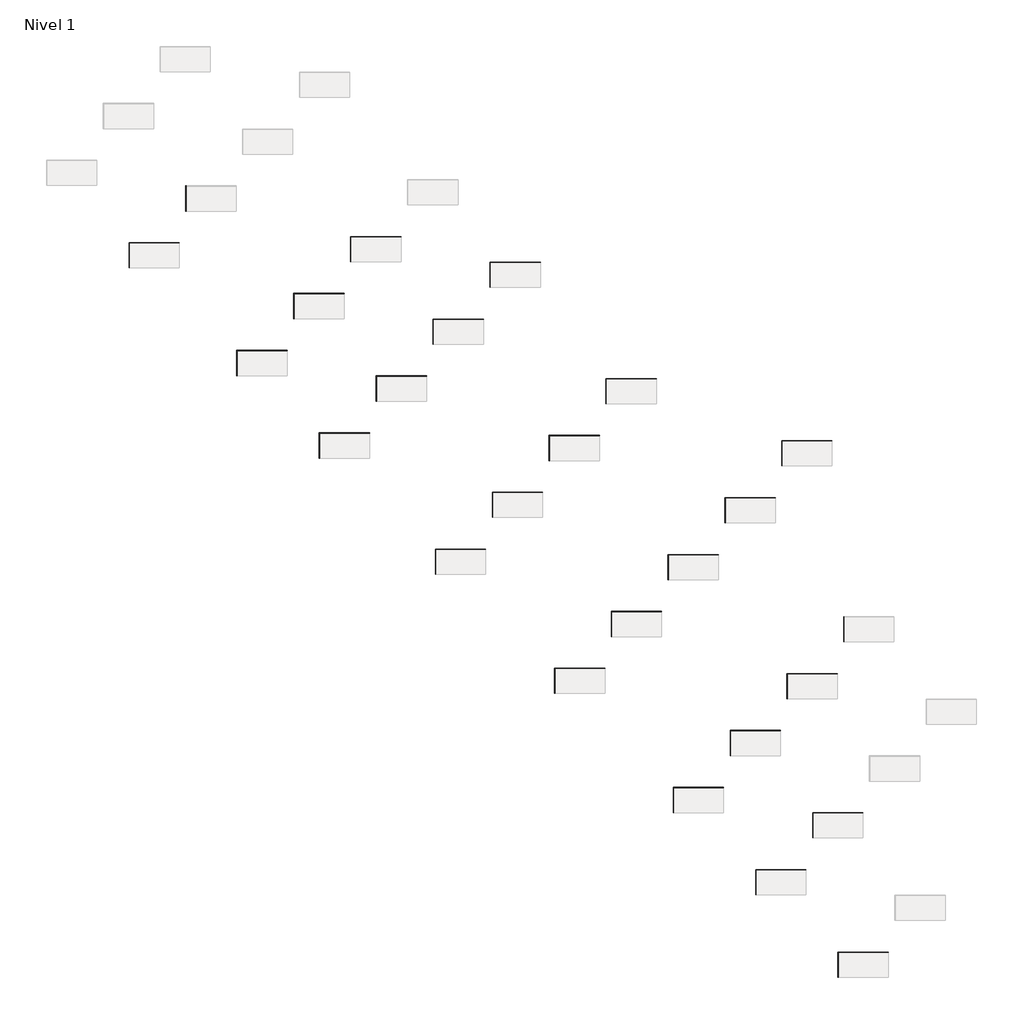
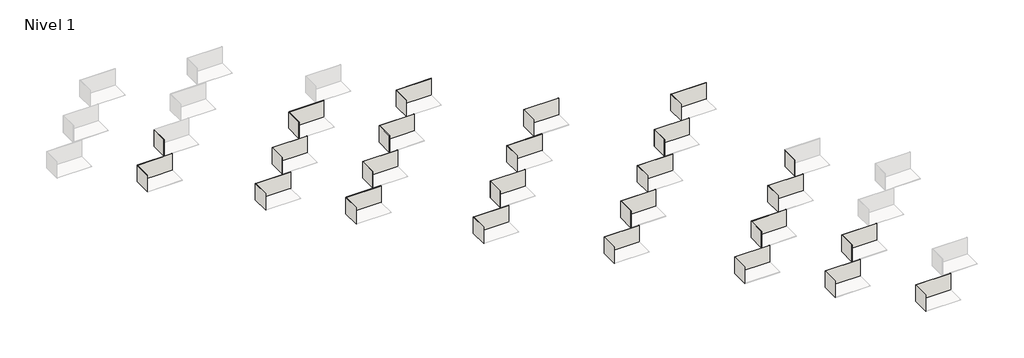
# One storey, part 1 of 2: 48 walls.
"""IFC4 building model written with IfcOpenShell, lengths in millimetres."""

import ifcopenshell
import ifcopenshell.guid

model = None  # the IFC model being written
_history = None  # IfcOwnerHistory: only IFC2X3 demands one
_inside = {}  # id of a spatial element -> (the spatial element, [elements in it])
_under = {}  # id of a project, library or spatial element -> (it, [spatial elements below it])
_declared = {}  # id of a project -> (the project, [libraries it declares])
_typed = {}  # id of a type object -> (the type object, [elements of that type])
_made_of = {}  # id of a material, layer set ... -> (it, [elements and type objects made of it])


def new_model(schema):
    """Start an empty IFC model of exactly this schema.

    Asked for "IFC4X3", IfcOpenShell would pick the latest addendum, in which some entities
    have other attributes; the version numbers below select the first issue.
    IFC2X3 requires an IfcOwnerHistory on every rooted entity: one is made here for all.
    """
    global model, _history
    if schema == "IFC4X3":
        model = ifcopenshell.file(schema_version=(4, 3, 0, 0))
    else:
        model = ifcopenshell.file(schema=schema)
    _inside.clear()
    _under.clear()
    _declared.clear()
    _typed.clear()
    _made_of.clear()
    _history = None
    if model.schema == "IFC2X3":
        org = make("IfcOrganization", Name="unknown")
        user = make(
            "IfcPersonAndOrganization",
            ThePerson=make("IfcPerson", FamilyName="unknown"),
            TheOrganization=org,
        )
        app = make(
            "IfcApplication",
            ApplicationDeveloper=org,
            Version="unknown",
            ApplicationFullName="unknown",
            ApplicationIdentifier="unknown",
        )
        _history = make(
            "IfcOwnerHistory",
            OwningUser=user,
            OwningApplication=app,
            ChangeAction="ADDED",
            CreationDate=0,
        )
    return model


def make(cls, **values):
    """One entity of the class cls with the attributes given. An attribute that is None is left unset."""
    return model.create_entity(
        cls, **{name: value for name, value in values.items() if value is not None}
    )


def rooted(cls, **values):
    """An entity with a GlobalId (a new one), such as an element, a storey or a relation."""
    return make(cls, GlobalId=ifcopenshell.guid.new(), OwnerHistory=_history, **values)


def si_unit(unit_type, name, prefix=None):
    """IfcSIUnit, for example si_unit("LENGTHUNIT", "METRE", prefix="MILLI")."""
    return make("IfcSIUnit", UnitType=unit_type, Prefix=prefix, Name=name)


def assignment(units):
    """IfcUnitAssignment: the units of a project."""
    return None if units is None else make("IfcUnitAssignment", Units=units)


def point(xyz):
    """IfcCartesianPoint."""
    return None if xyz is None else make("IfcCartesianPoint", Coordinates=xyz)


def direction(xyz):
    """IfcDirection."""
    return None if xyz is None else make("IfcDirection", DirectionRatios=xyz)


def frame(location, z_axis=None, x_axis=None):
    """IfcAxis2Placement3D, a coordinate frame: its origin and axes. An axis left out is left unset."""
    return make(
        "IfcAxis2Placement3D",
        Location=point(location),
        Axis=direction(z_axis),
        RefDirection=direction(x_axis),
    )


def origin():
    """The frame at (0, 0, 0) with its axes left unset."""
    return frame((0.0, 0.0, 0.0))


def origin_with_axes():
    """The frame at (0, 0, 0) with the z axis (0, 0, 1) and the x axis (1, 0, 0) written out."""
    return frame((0.0, 0.0, 0.0), z_axis=(0.0, 0.0, 1.0), x_axis=(1.0, 0.0, 0.0))


def place(relative_to, where):
    """IfcLocalPlacement: puts the frame where relative to a parent placement (None: the world)."""
    return make(
        "IfcLocalPlacement", PlacementRelTo=relative_to, RelativePlacement=where
    )


def context(
    kind, dimensions, precision=None, world=None, true_north=None, identifier=None
):
    """IfcGeometricRepresentationContext, for example the 3D "Model" context."""
    return make(
        "IfcGeometricRepresentationContext",
        ContextIdentifier=identifier,
        ContextType=kind,
        CoordinateSpaceDimension=dimensions,
        Precision=precision,
        WorldCoordinateSystem=world,
        TrueNorth=true_north,
    )


def project(units=None, contexts=None):
    """IfcProject with its units and contexts."""
    return rooted(
        "IfcProject",
        Name="project",
        RepresentationContexts=contexts,
        UnitsInContext=assignment(units),
    )


def spatial(cls, under=None, at=None, **own):
    """A site, building, storey or space (cls), placed at a placement, below another one or the project."""
    s = rooted(cls, ObjectPlacement=at, **own)
    if under is not None:
        _under.setdefault(under.id(), (under, []))[1].append(s)
    return s


def polyline(points):
    """IfcPolyline through the points."""
    return make("IfcPolyline", Points=[point(p) for p in points])


def outline(outer, holes=None, kind="AREA"):
    """IfcArbitraryClosedProfileDef: a profile drawn as a closed curve; with holes, ...WithVoids."""
    if holes is None:
        return make("IfcArbitraryClosedProfileDef", ProfileType=kind, OuterCurve=outer)
    return make(
        "IfcArbitraryProfileDefWithVoids",
        ProfileType=kind,
        OuterCurve=outer,
        InnerCurves=holes,
    )


def extrude(swept, where, along, depth):
    """IfcExtrudedAreaSolid: the profile swept, set in the frame where, extruded along a direction by depth."""
    return make(
        "IfcExtrudedAreaSolid",
        SweptArea=swept,
        Position=where,
        ExtrudedDirection=direction(along),
        Depth=depth,
    )


def faces_of(points, faces, orient=None, outer=None):
    """IfcFace entities. A face is a list of loops; a loop is a list of indices into points, from 0.

    orient and outer hold one flag for each loop. By default every Orientation is true, the
    first loop of a face is its IfcFaceOuterBound and the others are IfcFaceBound.
    """
    made = []
    for i, loops in enumerate(faces):
        bounds = []
        for j, loop in enumerate(loops):
            is_outer = j == 0 if outer is None else outer[i][j]
            bounds.append(
                make(
                    "IfcFaceOuterBound" if is_outer else "IfcFaceBound",
                    Bound=make("IfcPolyLoop", Polygon=[points[k] for k in loop]),
                    Orientation=True if orient is None else orient[i][j],
                )
            )
        made.append(make("IfcFace", Bounds=bounds))
    return made


def faceted_brep(points, faces, orient=None, outer=None, voids=None):
    """IfcFacetedBrep: a solid bounded by flat faces; with voids (closed shells), ...WithVoids."""
    shared = [point(p) for p in points]
    hull = make("IfcClosedShell", CfsFaces=faces_of(shared, faces, orient, outer))
    if voids is None:
        return make("IfcFacetedBrep", Outer=hull)
    return make(
        "IfcFacetedBrepWithVoids",
        Outer=hull,
        Voids=[
            make(cls, CfsFaces=faces_of(shared, fs, o, b)) for cls, fs, o, b in voids
        ],
    )


def shape(context_of_items, identifier, shape_type, items):
    """IfcShapeRepresentation: the items that make up one representation, for example the "Body"."""
    return make(
        "IfcShapeRepresentation",
        ContextOfItems=context_of_items,
        RepresentationIdentifier=identifier,
        RepresentationType=shape_type,
        Items=items,
    )


def made_of(thing, what):
    """Note that an element or type object is made of a material, layer set ...; save() writes the relation."""
    if what is not None:
        _made_of.setdefault(what.id(), (what, []))[1].append(thing)
    return thing


def element(
    cls,
    number,
    at=None,
    inside=None,
    cuts=None,
    type_object=None,
    material=None,
    context=None,
    identifier="Body",
    shape_type=None,
    held_by="IfcProductDefinitionShape",
    body=None,
    shapes=None,
    **own,
):
    """One element of the class cls, such as IfcWall. Its Tag is "e" and its number.

    at: its placement. inside: the storey or other place that contains it. cuts: it is an
    opening in that element (IfcRelVoidsElement). A single representation is given by context,
    identifier, shape_type and body (its items); several are given by shapes. held_by: the class
    of the entity that holds the representations. save() writes the other relations.
    """
    e = rooted(cls, Tag="e%d" % number, ObjectPlacement=at, **own)
    if body is not None:
        shapes = [shape(context, identifier, shape_type, body)]
    if shapes is not None:
        e.Representation = make(held_by, Representations=shapes)
    if inside is not None:
        _inside.setdefault(inside.id(), (inside, []))[1].append(e)
    if cuts is not None:
        rooted(
            "IfcRelVoidsElement", RelatingBuildingElement=cuts, RelatedOpeningElement=e
        )
    if type_object is not None:
        _typed.setdefault(type_object.id(), (type_object, []))[1].append(e)
    return made_of(e, material)


def aggregate(whole, parts):
    """IfcRelAggregates: a whole, such as a stair, and the parts it consists of."""
    return rooted("IfcRelAggregates", RelatingObject=whole, RelatedObjects=parts)


def save(model, path):
    """Write the relations noted so far, then the file.

    IfcRelAggregates (storeys below a building ...), IfcRelContainedInSpatialStructure (elements
    in a storey), IfcRelDefinesByType, IfcRelAssociatesMaterial and IfcRelDeclares: one each for
    every whole, place, type object, material and project.
    """
    for whole, parts in _under.values():
        aggregate(whole, parts)
    for where, things in _inside.values():
        rooted(
            "IfcRelContainedInSpatialStructure",
            RelatedElements=things,
            RelatingStructure=where,
        )
    for kind, things in _typed.values():
        rooted("IfcRelDefinesByType", RelatedObjects=things, RelatingType=kind)
    for what, things in _made_of.values():
        rooted("IfcRelAssociatesMaterial", RelatedObjects=things, RelatingMaterial=what)
    for by, libraries in _declared.values():
        rooted("IfcRelDeclares", RelatingContext=by, RelatedDefinitions=libraries)
    model.write(path)


model = new_model("IFC4")

# Units and contexts
model_context = context("Model", 3, world=origin())
ifc_project = project(units=[si_unit("LENGTHUNIT", "METRE", prefix="MILLI")], contexts=[model_context])

# Site, building, storey
site = spatial("IfcSite", under=ifc_project)
building = spatial("IfcBuilding", under=site)
storey = spatial("IfcBuildingStorey", under=building, Name="Nivel 1", Elevation=0.0)

# Walls
placement = place(None, origin())
element("IfcWall", 1, ObjectType="Pieza 316_Patrón 1/3_Bohème_Brune_Liso", at=placement, inside=storey, context=model_context, shape_type="Brep", body=[
    faceted_brep([(4521.6110006, 29356.6532345, 0.0), (4521.6110006, 30300.1532345, 0.0), (4521.6110006, 30309.1532345, 0.0), (4521.6110006, 30309.1532345, 948.0), (4521.6110006, 30300.1532345, 948.0), (4521.6110006, 29356.6532345, 948.0), (4512.6110006, 29356.6532345, 0.0), (4512.6110006, 29356.6532345, 948.0), (4512.6110006, 30309.1532345, 948.0), (4512.6110006, 30309.1532345, 0.0)], [[[0, 1, 2, 3, 4, 5]], [[6, 7, 8, 9]], [[2, 1, 0, 6, 9]], [[5, 4, 3, 8, 7]], [[0, 5, 7, 6]], [[3, 2, 9, 8]]]),
])
element("IfcWall", 2, ObjectType="Pieza 316_Patrón 1/3_Bohème_Brune_Liso", at=placement, inside=storey, context=model_context, shape_type="SweptSolid", body=[
    extrude(outline(polyline([(6413.1110006, 30300.1532345), (4521.6110006, 30300.1532345), (4521.6110006, 30309.1532345), (6413.1110006, 30309.1532345), (6413.1110006, 30300.1532345)])), origin_with_axes(), (0.0, 0.0, 1.0), 948.0),
])
element("IfcWall", 3, ObjectType="Pieza 316_Patrón 1/3_Bohème_Glacé_Liso", at=placement, inside=storey, context=model_context, shape_type="Brep", body=[
    faceted_brep([(6662.9965945, 31498.0388284, 0.0), (6662.9965945, 32441.5388284, 0.0), (6662.9965945, 32450.5388284, 0.0), (6662.9965945, 32450.5388284, 948.0), (6662.9965945, 32441.5388284, 948.0), (6662.9965945, 31498.0388284, 948.0), (6653.9965945, 31498.0388284, 0.0), (6653.9965945, 31498.0388284, 948.0), (6653.9965945, 32450.5388284, 948.0), (6653.9965945, 32450.5388284, 0.0)], [[[0, 1, 2, 3, 4, 5]], [[6, 7, 8, 9]], [[2, 1, 0, 6, 9]], [[5, 4, 3, 8, 7]], [[0, 5, 7, 6]], [[3, 2, 9, 8]]]),
])
element("IfcWall", 4, ObjectType="Pieza 316_Patrón 1/3_Mistery_Blue Stone_Anti-Slip", at=placement, inside=storey, context=model_context, shape_type="Brep", body=[
    faceted_brep([(8592.234253, 25288.2582952, 0.0), (8592.234253, 26231.7582952, 0.0), (8592.234253, 26240.7582952, 0.0), (8592.234253, 26240.7582952, 948.0), (8592.234253, 26231.7582952, 948.0), (8592.234253, 25288.2582952, 948.0), (8583.234253, 25288.2582952, 0.0), (8583.234253, 25288.2582952, 948.0), (8583.234253, 26240.7582952, 948.0), (8583.234253, 26240.7582952, 0.0)], [[[0, 1, 2, 3, 4, 5]], [[6, 7, 8, 9]], [[2, 1, 0, 6, 9]], [[5, 4, 3, 8, 7]], [[0, 5, 7, 6]], [[3, 2, 9, 8]]]),
])
element("IfcWall", 5, ObjectType="Pieza 316_Patrón 1/3_Mistery_Blue Stone_Anti-Slip", at=placement, inside=storey, context=model_context, shape_type="SweptSolid", body=[
    extrude(outline(polyline([(10483.734253, 26231.7582952), (8592.234253, 26231.7582952), (8592.234253, 26240.7582952), (10483.734253, 26240.7582952), (10483.734253, 26231.7582952)])), origin_with_axes(), (0.0, 0.0, 1.0), 948.0),
])
element("IfcWall", 6, ObjectType="Pieza 316_Patrón 1/3_Mistery_Blue Stone_Liso", at=placement, inside=storey, context=model_context, shape_type="Brep", body=[
    faceted_brep([(11703.5040902, 22176.988458, 0.0), (11703.5040902, 23120.488458, 0.0), (11703.5040902, 23129.488458, 0.0), (11703.5040902, 23129.488458, 948.0), (11703.5040902, 23120.488458, 948.0), (11703.5040902, 22176.988458, 948.0), (11694.5040902, 22176.988458, 0.0), (11694.5040902, 22176.988458, 948.0), (11694.5040902, 23129.488458, 948.0), (11694.5040902, 23129.488458, 0.0)], [[[0, 1, 2, 3, 4, 5]], [[6, 7, 8, 9]], [[2, 1, 0, 6, 9]], [[5, 4, 3, 8, 7]], [[0, 5, 7, 6]], [[3, 2, 9, 8]]]),
])
element("IfcWall", 7, ObjectType="Pieza 316_Patrón 1/3_Mistery_Blue Stone_Liso", at=placement, inside=storey, context=model_context, shape_type="SweptSolid", body=[
    extrude(outline(polyline([(13595.0040902, 23120.488458), (11703.5040902, 23120.488458), (11703.5040902, 23129.488458), (13595.0040902, 23129.488458), (13595.0040902, 23120.488458)])), origin_with_axes(), (0.0, 0.0, 1.0), 948.0),
])
element("IfcWall", 8, ObjectType="Pieza 316_Patrón 1/3_Mistery_Grey_Anti-Slip", at=placement, inside=storey, context=model_context, shape_type="Brep", body=[
    faceted_brep([(10742.6198468, 27438.643889, 0.0), (10742.6198468, 28382.143889, 0.0), (10742.6198468, 28391.143889, 0.0), (10742.6198468, 28391.143889, 948.0), (10742.6198468, 28382.143889, 948.0), (10742.6198468, 27438.643889, 948.0), (10733.6198468, 27438.643889, 0.0), (10733.6198468, 27438.643889, 948.0), (10733.6198468, 28391.143889, 948.0), (10733.6198468, 28391.143889, 0.0)], [[[0, 1, 2, 3, 4, 5]], [[6, 7, 8, 9]], [[2, 1, 0, 6, 9]], [[5, 4, 3, 8, 7]], [[0, 5, 7, 6]], [[3, 2, 9, 8]]]),
])
element("IfcWall", 9, ObjectType="Pieza 316_Patrón 1/3_Mistery_Grey_Anti-Slip", at=placement, inside=storey, context=model_context, shape_type="SweptSolid", body=[
    extrude(outline(polyline([(12634.1198468, 28382.143889), (10742.6198468, 28382.143889), (10742.6198468, 28391.143889), (12634.1198468, 28391.143889), (12634.1198468, 28382.143889)])), origin_with_axes(), (0.0, 0.0, 1.0), 948.0),
])
element("IfcWall", 10, ObjectType="Pieza 316_Patrón 1/3_Mistery_Grey_Liso", at=placement, inside=storey, context=model_context, shape_type="Brep", body=[
    faceted_brep([(13853.889684, 24327.3740518, 0.0), (13853.889684, 25270.8740518, 0.0), (13853.889684, 25279.8740518, 0.0), (13853.889684, 25279.8740518, 948.0), (13853.889684, 25270.8740518, 948.0), (13853.889684, 24327.3740518, 948.0), (13844.889684, 24327.3740518, 0.0), (13844.889684, 24327.3740518, 948.0), (13844.889684, 25279.8740518, 948.0), (13844.889684, 25279.8740518, 0.0)], [[[0, 1, 2, 3, 4, 5]], [[6, 7, 8, 9]], [[2, 1, 0, 6, 9]], [[5, 4, 3, 8, 7]], [[0, 5, 7, 6]], [[3, 2, 9, 8]]]),
])
element("IfcWall", 11, ObjectType="Pieza 316_Patrón 1/3_Mistery_Grey_Liso", at=placement, inside=storey, context=model_context, shape_type="SweptSolid", body=[
    extrude(outline(polyline([(15745.389684, 25270.8740518), (13853.889684, 25270.8740518), (13853.889684, 25279.8740518), (15745.389684, 25279.8740518), (15745.389684, 25270.8740518)])), origin_with_axes(), (0.0, 0.0, 1.0), 948.0),
])
element("IfcWall", 12, ObjectType="Pieza 316_Patrón 1/3_Mistery_Sand_Anti-Slip", at=placement, inside=storey, context=model_context, shape_type="Brep", body=[
    faceted_brep([(12884.0054407, 29580.0294829, 0.0), (12884.0054407, 30523.5294829, 0.0), (12884.0054407, 30532.5294829, 0.0), (12884.0054407, 30532.5294829, 948.0), (12884.0054407, 30523.5294829, 948.0), (12884.0054407, 29580.0294829, 948.0), (12875.0054407, 29580.0294829, 0.0), (12875.0054407, 29580.0294829, 948.0), (12875.0054407, 30532.5294829, 948.0), (12875.0054407, 30532.5294829, 0.0)], [[[0, 1, 2, 3, 4, 5]], [[6, 7, 8, 9]], [[2, 1, 0, 6, 9]], [[5, 4, 3, 8, 7]], [[0, 5, 7, 6]], [[3, 2, 9, 8]]]),
])
element("IfcWall", 13, ObjectType="Pieza 316_Patrón 1/3_Mistery_Sand_Anti-Slip", at=placement, inside=storey, context=model_context, shape_type="SweptSolid", body=[
    extrude(outline(polyline([(14775.5054407, 30523.5294829), (12884.0054407, 30523.5294829), (12884.0054407, 30532.5294829), (14775.5054407, 30532.5294829), (14775.5054407, 30523.5294829)])), origin_with_axes(), (0.0, 0.0, 1.0), 948.0),
])
element("IfcWall", 14, ObjectType="Pieza 316_Patrón 1/3_Mistery_Sand_Liso", at=placement, inside=storey, context=model_context, shape_type="Brep", body=[
    faceted_brep([(15995.2752779, 26468.7596457, 0.0), (15995.2752779, 27412.2596457, 0.0), (15995.2752779, 27421.2596457, 0.0), (15995.2752779, 27421.2596457, 948.0), (15995.2752779, 27412.2596457, 948.0), (15995.2752779, 26468.7596457, 948.0), (15986.2752779, 26468.7596457, 0.0), (15986.2752779, 26468.7596457, 948.0), (15986.2752779, 27421.2596457, 948.0), (15986.2752779, 27421.2596457, 0.0)], [[[0, 1, 2, 3, 4, 5]], [[6, 7, 8, 9]], [[2, 1, 0, 6, 9]], [[5, 4, 3, 8, 7]], [[0, 5, 7, 6]], [[3, 2, 9, 8]]]),
])
element("IfcWall", 15, ObjectType="Pieza 316_Patrón 1/3_Mistery_Sand_Liso", at=placement, inside=storey, context=model_context, shape_type="SweptSolid", body=[
    extrude(outline(polyline([(17886.7752779, 27412.2596457), (15995.2752779, 27412.2596457), (15995.2752779, 27421.2596457), (17886.7752779, 27421.2596457), (17886.7752779, 27412.2596457)])), origin_with_axes(), (0.0, 0.0, 1.0), 948.0),
])
element("IfcWall", 16, ObjectType="Pieza 316_Patrón 1/3_Mistery_White_Liso", at=placement, inside=storey, context=model_context, shape_type="Brep", body=[
    faceted_brep([(18145.6608717, 28619.1452395, 0.0), (18145.6608717, 29562.6452395, 0.0), (18145.6608717, 29571.6452395, 0.0), (18145.6608717, 29571.6452395, 948.0), (18145.6608717, 29562.6452395, 948.0), (18145.6608717, 28619.1452395, 948.0), (18136.6608717, 28619.1452395, 0.0), (18136.6608717, 28619.1452395, 948.0), (18136.6608717, 29571.6452395, 948.0), (18136.6608717, 29571.6452395, 0.0)], [[[0, 1, 2, 3, 4, 5]], [[6, 7, 8, 9]], [[2, 1, 0, 6, 9]], [[5, 4, 3, 8, 7]], [[0, 5, 7, 6]], [[3, 2, 9, 8]]]),
])
element("IfcWall", 17, ObjectType="Pieza 316_Patrón 1/3_Mistery_White_Liso", at=placement, inside=storey, context=model_context, shape_type="SweptSolid", body=[
    extrude(outline(polyline([(20037.1608717, 29562.6452395), (18145.6608717, 29562.6452395), (18145.6608717, 29571.6452395), (20037.1608717, 29571.6452395), (20037.1608717, 29562.6452395)])), origin_with_axes(), (0.0, 0.0, 1.0), 948.0),
])
element("IfcWall", 18, ObjectType="Pieza 316_Patrón 1/3_Pietro_Dark_Anti-Slip", at=placement, inside=storey, context=model_context, shape_type="Brep", body=[
    faceted_brep([(16088.5203883, 17789.318155, 0.0), (16088.5203883, 18732.818155, 0.0), (16088.5203883, 18741.818155, 0.0), (16088.5203883, 18741.818155, 948.0), (16088.5203883, 18732.818155, 948.0), (16088.5203883, 17789.318155, 948.0), (16079.5203883, 17789.318155, 0.0), (16079.5203883, 17789.318155, 948.0), (16079.5203883, 18741.818155, 948.0), (16079.5203883, 18741.818155, 0.0)], [[[0, 1, 2, 3, 4, 5]], [[6, 7, 8, 9]], [[2, 1, 0, 6, 9]], [[5, 4, 3, 8, 7]], [[0, 5, 7, 6]], [[3, 2, 9, 8]]]),
])
element("IfcWall", 19, ObjectType="Pieza 316_Patrón 1/3_Pietro_Dark_Anti-Slip", at=placement, inside=storey, context=model_context, shape_type="SweptSolid", body=[
    extrude(outline(polyline([(17980.0203883, 18732.818155), (16088.5203883, 18732.818155), (16088.5203883, 18741.818155), (17980.0203883, 18741.818155), (17980.0203883, 18732.818155)])), origin_with_axes(), (0.0, 0.0, 1.0), 948.0),
])
element("IfcWall", 20, ObjectType="Pieza 316_Patrón 1/3_Pietro_Golden_Anti-Slip", at=placement, inside=storey, context=model_context, shape_type="Brep", body=[
    faceted_brep([(18238.9059821, 19939.7037489, 0.0), (18238.9059821, 20883.2037489, 0.0), (18238.9059821, 20892.2037489, 0.0), (18238.9059821, 20892.2037489, 948.0), (18238.9059821, 20883.2037489, 948.0), (18238.9059821, 19939.7037489, 948.0), (18229.9059821, 19939.7037489, 0.0), (18229.9059821, 19939.7037489, 948.0), (18229.9059821, 20892.2037489, 948.0), (18229.9059821, 20892.2037489, 0.0)], [[[0, 1, 2, 3, 4, 5]], [[6, 7, 8, 9]], [[2, 1, 0, 6, 9]], [[5, 4, 3, 8, 7]], [[0, 5, 7, 6]], [[3, 2, 9, 8]]]),
])
element("IfcWall", 21, ObjectType="Pieza 316_Patrón 1/3_Pietro_Golden_Anti-Slip", at=placement, inside=storey, context=model_context, shape_type="SweptSolid", body=[
    extrude(outline(polyline([(20130.4059821, 20883.2037489), (18238.9059821, 20883.2037489), (18238.9059821, 20892.2037489), (20130.4059821, 20892.2037489), (20130.4059821, 20883.2037489)])), origin_with_axes(), (0.0, 0.0, 1.0), 948.0),
])
element("IfcWall", 22, ObjectType="Pieza 316_Patrón 1/3_Pietro_Grey_Anti-Slip", at=placement, inside=storey, context=model_context, shape_type="Brep", body=[
    faceted_brep([(20380.291576, 22081.0893427, 0.0), (20380.291576, 23024.5893427, 0.0), (20380.291576, 23033.5893427, 0.0), (20380.291576, 23033.5893427, 948.0), (20380.291576, 23024.5893427, 948.0), (20380.291576, 22081.0893427, 948.0), (20371.291576, 22081.0893427, 0.0), (20371.291576, 22081.0893427, 948.0), (20371.291576, 23033.5893427, 948.0), (20371.291576, 23033.5893427, 0.0)], [[[0, 1, 2, 3, 4, 5]], [[6, 7, 8, 9]], [[2, 1, 0, 6, 9]], [[5, 4, 3, 8, 7]], [[0, 5, 7, 6]], [[3, 2, 9, 8]]]),
])
element("IfcWall", 23, ObjectType="Pieza 316_Patrón 1/3_Pietro_Grey_Anti-Slip", at=placement, inside=storey, context=model_context, shape_type="SweptSolid", body=[
    extrude(outline(polyline([(22271.791576, 23024.5893427), (20380.291576, 23024.5893427), (20380.291576, 23033.5893427), (22271.791576, 23033.5893427), (22271.791576, 23024.5893427)])), origin_with_axes(), (0.0, 0.0, 1.0), 948.0),
])
element("IfcWall", 24, ObjectType="Pieza 316_Patrón 1/3_Pietro_White_Anti-Slip", at=placement, inside=storey, context=model_context, shape_type="Brep", body=[
    faceted_brep([(22521.6771698, 24222.4749366, 0.0), (22521.6771698, 25165.9749366, 0.0), (22521.6771698, 25174.9749366, 0.0), (22521.6771698, 25174.9749366, 948.0), (22521.6771698, 25165.9749366, 948.0), (22521.6771698, 24222.4749366, 948.0), (22512.6771698, 24222.4749366, 0.0), (22512.6771698, 24222.4749366, 948.0), (22512.6771698, 25174.9749366, 948.0), (22512.6771698, 25174.9749366, 0.0)], [[[0, 1, 2, 3, 4, 5]], [[6, 7, 8, 9]], [[2, 1, 0, 6, 9]], [[5, 4, 3, 8, 7]], [[0, 5, 7, 6]], [[3, 2, 9, 8]]]),
])
element("IfcWall", 25, ObjectType="Pieza 316_Patrón 1/3_Pietro_White_Anti-Slip", at=placement, inside=storey, context=model_context, shape_type="SweptSolid", body=[
    extrude(outline(polyline([(24413.1771698, 25165.9749366), (22521.6771698, 25165.9749366), (22521.6771698, 25174.9749366), (24413.1771698, 25174.9749366), (24413.1771698, 25165.9749366)])), origin_with_axes(), (0.0, 0.0, 1.0), 948.0),
])
element("IfcWall", 26, ObjectType="Pieza 316_Patrón 1/3_Serena_Bianco_Anti-Slip", at=placement, inside=storey, context=model_context, shape_type="Brep", body=[
    faceted_brep([(20585.291576, 13304.4244222, 0.0), (20585.291576, 14247.9244222, 0.0), (20585.291576, 14256.9244222, 0.0), (20585.291576, 14256.9244222, 948.0), (20585.291576, 14247.9244222, 948.0), (20585.291576, 13304.4244222, 948.0), (20576.291576, 13304.4244222, 0.0), (20576.291576, 13304.4244222, 948.0), (20576.291576, 14256.9244222, 948.0), (20576.291576, 14256.9244222, 0.0)], [[[0, 1, 2, 3, 4, 5]], [[6, 7, 8, 9]], [[2, 1, 0, 6, 9]], [[5, 4, 3, 8, 7]], [[0, 5, 7, 6]], [[3, 2, 9, 8]]]),
])
element("IfcWall", 27, ObjectType="Pieza 316_Patrón 1/3_Serena_Bianco_Anti-Slip", at=placement, inside=storey, context=model_context, shape_type="SweptSolid", body=[
    extrude(outline(polyline([(22476.791576, 14247.9244222), (20585.291576, 14247.9244222), (20585.291576, 14256.9244222), (22476.791576, 14256.9244222), (22476.791576, 14247.9244222)])), origin_with_axes(), (0.0, 0.0, 1.0), 948.0),
])
element("IfcWall", 28, ObjectType="Pieza 316_Patrón 1/3_Serena_Griggio_Anti-Slip", at=placement, inside=storey, context=model_context, shape_type="Brep", body=[
    faceted_brep([(22726.6771698, 15445.8100161, 0.0), (22726.6771698, 16389.3100161, 0.0), (22726.6771698, 16398.3100161, 0.0), (22726.6771698, 16398.3100161, 948.0), (22726.6771698, 16389.3100161, 948.0), (22726.6771698, 15445.8100161, 948.0), (22717.6771698, 15445.8100161, 0.0), (22717.6771698, 15445.8100161, 948.0), (22717.6771698, 16398.3100161, 948.0), (22717.6771698, 16398.3100161, 0.0)], [[[0, 1, 2, 3, 4, 5]], [[6, 7, 8, 9]], [[2, 1, 0, 6, 9]], [[5, 4, 3, 8, 7]], [[0, 5, 7, 6]], [[3, 2, 9, 8]]]),
])
element("IfcWall", 29, ObjectType="Pieza 316_Patrón 1/3_Serena_Griggio_Anti-Slip", at=placement, inside=storey, context=model_context, shape_type="SweptSolid", body=[
    extrude(outline(polyline([(24618.1771698, 16389.3100161), (22726.6771698, 16389.3100161), (22726.6771698, 16398.3100161), (24618.1771698, 16398.3100161), (24618.1771698, 16389.3100161)])), origin_with_axes(), (0.0, 0.0, 1.0), 948.0),
])
element("IfcWall", 30, ObjectType="Pieza 316_Patrón 1/3_Serena_Mix_Anti-Slip", at=placement, inside=storey, context=model_context, shape_type="Brep", body=[
    faceted_brep([(24868.0627637, 17587.1956099, 0.0), (24868.0627637, 18530.6956099, 0.0), (24868.0627637, 18539.6956099, 0.0), (24868.0627637, 18539.6956099, 948.0), (24868.0627637, 18530.6956099, 948.0), (24868.0627637, 17587.1956099, 948.0), (24859.0627637, 17587.1956099, 0.0), (24859.0627637, 17587.1956099, 948.0), (24859.0627637, 18539.6956099, 948.0), (24859.0627637, 18539.6956099, 0.0)], [[[0, 1, 2, 3, 4, 5]], [[6, 7, 8, 9]], [[2, 1, 0, 6, 9]], [[5, 4, 3, 8, 7]], [[0, 5, 7, 6]], [[3, 2, 9, 8]]]),
])
element("IfcWall", 31, ObjectType="Pieza 316_Patrón 1/3_Serena_Mix_Anti-Slip", at=placement, inside=storey, context=model_context, shape_type="SweptSolid", body=[
    extrude(outline(polyline([(26759.5627637, 18530.6956099), (24868.0627637, 18530.6956099), (24868.0627637, 18539.6956099), (26759.5627637, 18539.6956099), (26759.5627637, 18530.6956099)])), origin_with_axes(), (0.0, 0.0, 1.0), 948.0),
])
element("IfcWall", 32, ObjectType="Pieza 316_Patrón 1/3_Serena_Nero_Anti-Slip", at=placement, inside=storey, context=model_context, shape_type="Brep", body=[
    faceted_brep([(27018.4483575, 19737.5812037, 0.0), (27018.4483575, 20681.0812037, 0.0), (27018.4483575, 20690.0812037, 0.0), (27018.4483575, 20690.0812037, 948.0), (27018.4483575, 20681.0812037, 948.0), (27018.4483575, 19737.5812037, 948.0), (27009.4483575, 19737.5812037, 0.0), (27009.4483575, 19737.5812037, 948.0), (27009.4483575, 20690.0812037, 948.0), (27009.4483575, 20690.0812037, 0.0)], [[[0, 1, 2, 3, 4, 5]], [[6, 7, 8, 9]], [[2, 1, 0, 6, 9]], [[5, 4, 3, 8, 7]], [[0, 5, 7, 6]], [[3, 2, 9, 8]]]),
])
element("IfcWall", 33, ObjectType="Pieza 316_Patrón 1/3_Serena_Nero_Anti-Slip", at=placement, inside=storey, context=model_context, shape_type="SweptSolid", body=[
    extrude(outline(polyline([(28909.9483575, 20681.0812037), (27018.4483575, 20681.0812037), (27018.4483575, 20690.0812037), (28909.9483575, 20690.0812037), (28909.9483575, 20681.0812037)])), origin_with_axes(), (0.0, 0.0, 1.0), 948.0),
])
element("IfcWall", 34, ObjectType="Pieza 316_Patrón 1/3_Serena_Ocra_Anti-Slip", at=placement, inside=storey, context=model_context, shape_type="Brep", body=[
    faceted_brep([(29159.8339514, 21878.9667976, 0.0), (29159.8339514, 22822.4667976, 0.0), (29159.8339514, 22831.4667976, 0.0), (29159.8339514, 22831.4667976, 948.0), (29159.8339514, 22822.4667976, 948.0), (29159.8339514, 21878.9667976, 948.0), (29150.8339514, 21878.9667976, 0.0), (29150.8339514, 21878.9667976, 948.0), (29150.8339514, 22831.4667976, 948.0), (29150.8339514, 22831.4667976, 0.0)], [[[0, 1, 2, 3, 4, 5]], [[6, 7, 8, 9]], [[2, 1, 0, 6, 9]], [[5, 4, 3, 8, 7]], [[0, 5, 7, 6]], [[3, 2, 9, 8]]]),
])
element("IfcWall", 35, ObjectType="Pieza 316_Patrón 1/3_Serena_Ocra_Anti-Slip", at=placement, inside=storey, context=model_context, shape_type="SweptSolid", body=[
    extrude(outline(polyline([(31051.3339514, 22822.4667976), (29159.8339514, 22822.4667976), (29159.8339514, 22831.4667976), (31051.3339514, 22831.4667976), (31051.3339514, 22822.4667976)])), origin_with_axes(), (0.0, 0.0, 1.0), 948.0),
])
element("IfcWall", 36, ObjectType="Pieza 316_Patrón 1/3_Tao_Beige_Anti-Slip", at=placement, inside=storey, context=model_context, shape_type="Brep", body=[
    faceted_brep([(25064.4821462, 8806.2339106, 0.0), (25064.4821462, 9749.7339106, 0.0), (25064.4821462, 9758.7339106, 0.0), (25064.4821462, 9758.7339106, 948.0), (25064.4821462, 9749.7339106, 948.0), (25064.4821462, 8806.2339106, 948.0), (25055.4821462, 8806.2339106, 0.0), (25055.4821462, 8806.2339106, 948.0), (25055.4821462, 9758.7339106, 948.0), (25055.4821462, 9758.7339106, 0.0)], [[[0, 1, 2, 3, 4, 5]], [[6, 7, 8, 9]], [[2, 1, 0, 6, 9]], [[5, 4, 3, 8, 7]], [[0, 5, 7, 6]], [[3, 2, 9, 8]]]),
])
element("IfcWall", 37, ObjectType="Pieza 316_Patrón 1/3_Tao_Beige_Anti-Slip", at=placement, inside=storey, context=model_context, shape_type="SweptSolid", body=[
    extrude(outline(polyline([(26955.9821462, 9749.7339106), (25064.4821462, 9749.7339106), (25064.4821462, 9758.7339106), (26955.9821462, 9758.7339106), (26955.9821462, 9749.7339106)])), origin_with_axes(), (0.0, 0.0, 1.0), 948.0),
])
element("IfcWall", 38, ObjectType="Pieza 316_Patrón 1/3_Tao_Beige_Liso", at=placement, inside=storey, context=model_context, shape_type="Brep", body=[
    faceted_brep([(28175.7519834, 5694.9640733, 0.0), (28175.7519834, 6638.4640733, 0.0), (28175.7519834, 6647.4640733, 0.0), (28175.7519834, 6647.4640733, 948.0), (28175.7519834, 6638.4640733, 948.0), (28175.7519834, 5694.9640733, 948.0), (28166.7519834, 5694.9640733, 0.0), (28166.7519834, 5694.9640733, 948.0), (28166.7519834, 6647.4640733, 948.0), (28166.7519834, 6647.4640733, 0.0)], [[[0, 1, 2, 3, 4, 5]], [[6, 7, 8, 9]], [[2, 1, 0, 6, 9]], [[5, 4, 3, 8, 7]], [[0, 5, 7, 6]], [[3, 2, 9, 8]]]),
])
element("IfcWall", 39, ObjectType="Pieza 316_Patrón 1/3_Tao_Beige_Liso", at=placement, inside=storey, context=model_context, shape_type="SweptSolid", body=[
    extrude(outline(polyline([(30067.2519834, 6638.4640733), (28175.7519834, 6638.4640733), (28175.7519834, 6647.4640733), (30067.2519834, 6647.4640733), (30067.2519834, 6638.4640733)])), origin_with_axes(), (0.0, 0.0, 1.0), 948.0),
])
element("IfcWall", 40, ObjectType="Pieza 316_Patrón 1/3_Tao_Brown_Anti-Slip", at=placement, inside=storey, context=model_context, shape_type="Brep", body=[
    faceted_brep([(27214.86774, 10956.6195044, 0.0), (27214.86774, 11900.1195044, 0.0), (27214.86774, 11909.1195044, 0.0), (27214.86774, 11909.1195044, 948.0), (27214.86774, 11900.1195044, 948.0), (27214.86774, 10956.6195044, 948.0), (27205.86774, 10956.6195044, 0.0), (27205.86774, 10956.6195044, 948.0), (27205.86774, 11909.1195044, 948.0), (27205.86774, 11909.1195044, 0.0)], [[[0, 1, 2, 3, 4, 5]], [[6, 7, 8, 9]], [[2, 1, 0, 6, 9]], [[5, 4, 3, 8, 7]], [[0, 5, 7, 6]], [[3, 2, 9, 8]]]),
])
element("IfcWall", 41, ObjectType="Pieza 316_Patrón 1/3_Tao_Brown_Anti-Slip", at=placement, inside=storey, context=model_context, shape_type="SweptSolid", body=[
    extrude(outline(polyline([(29106.36774, 11900.1195044), (27214.86774, 11900.1195044), (27214.86774, 11909.1195044), (29106.36774, 11909.1195044), (29106.36774, 11900.1195044)])), origin_with_axes(), (0.0, 0.0, 1.0), 948.0),
])
element("IfcWall", 42, ObjectType="Pieza 316_Patrón 1/3_Tao_Brown_Liso", at=placement, inside=storey, context=model_context, shape_type="Brep", body=[
    faceted_brep([(30326.1375772, 7845.3496672, 0.0), (30326.1375772, 8788.8496672, 0.0), (30326.1375772, 8797.8496672, 0.0), (30326.1375772, 8797.8496672, 948.0), (30326.1375772, 8788.8496672, 948.0), (30326.1375772, 7845.3496672, 948.0), (30317.1375772, 7845.3496672, 0.0), (30317.1375772, 7845.3496672, 948.0), (30317.1375772, 8797.8496672, 948.0), (30317.1375772, 8797.8496672, 0.0)], [[[0, 1, 2, 3, 4, 5]], [[6, 7, 8, 9]], [[2, 1, 0, 6, 9]], [[5, 4, 3, 8, 7]], [[0, 5, 7, 6]], [[3, 2, 9, 8]]]),
])
element("IfcWall", 43, ObjectType="Pieza 316_Patrón 1/3_Tao_Brown_Liso", at=placement, inside=storey, context=model_context, shape_type="SweptSolid", body=[
    extrude(outline(polyline([(32217.6375772, 8788.8496672), (30326.1375772, 8788.8496672), (30326.1375772, 8797.8496672), (32217.6375772, 8797.8496672), (32217.6375772, 8788.8496672)])), origin_with_axes(), (0.0, 0.0, 1.0), 948.0),
])
element("IfcWall", 44, ObjectType="Pieza 316_Patrón 1/3_Tao_Grey_Anti-Slip", at=placement, inside=storey, context=model_context, shape_type="Brep", body=[
    faceted_brep([(29356.2533339, 13098.0050983, 0.0), (29356.2533339, 14041.5050983, 0.0), (29356.2533339, 14050.5050983, 0.0), (29356.2533339, 14050.5050983, 948.0), (29356.2533339, 14041.5050983, 948.0), (29356.2533339, 13098.0050983, 948.0), (29347.2533339, 13098.0050983, 0.0), (29347.2533339, 13098.0050983, 948.0), (29347.2533339, 14050.5050983, 948.0), (29347.2533339, 14050.5050983, 0.0)], [[[0, 1, 2, 3, 4, 5]], [[6, 7, 8, 9]], [[2, 1, 0, 6, 9]], [[5, 4, 3, 8, 7]], [[0, 5, 7, 6]], [[3, 2, 9, 8]]]),
])
element("IfcWall", 45, ObjectType="Pieza 316_Patrón 1/3_Tao_Grey_Anti-Slip", at=placement, inside=storey, context=model_context, shape_type="SweptSolid", body=[
    extrude(outline(polyline([(31247.7533339, 14041.5050983), (29356.2533339, 14041.5050983), (29356.2533339, 14050.5050983), (31247.7533339, 14050.5050983), (31247.7533339, 14041.5050983)])), origin_with_axes(), (0.0, 0.0, 1.0), 948.0),
])
element("IfcWall", 46, ObjectType="Pieza 316_Patrón 1/3_Tao_Silver_Anti-Slip", at=placement, inside=storey, context=model_context, shape_type="Brep", body=[
    faceted_brep([(31497.6389277, 15239.3906921, 0.0), (31497.6389277, 16182.8906921, 0.0), (31497.6389277, 16191.8906921, 0.0), (31497.6389277, 16191.8906921, 948.0), (31497.6389277, 16182.8906921, 948.0), (31497.6389277, 15239.3906921, 948.0), (31488.6389277, 15239.3906921, 0.0), (31488.6389277, 15239.3906921, 948.0), (31488.6389277, 16191.8906921, 948.0), (31488.6389277, 16191.8906921, 0.0)], [[[0, 1, 2, 3, 4, 5]], [[6, 7, 8, 9]], [[2, 1, 0, 6, 9]], [[5, 4, 3, 8, 7]], [[0, 5, 7, 6]], [[3, 2, 9, 8]]]),
])
element("IfcWall", 47, ObjectType="Pieza 316_Patrón 1/3_Tresor_Java_Anti-Slip", at=placement, inside=storey, context=model_context, shape_type="Brep", body=[
    faceted_brep([(31287.0218206, 2583.6942361, 0.0), (31287.0218206, 3527.1942361, 0.0), (31287.0218206, 3536.1942361, 0.0), (31287.0218206, 3536.1942361, 948.0), (31287.0218206, 3527.1942361, 948.0), (31287.0218206, 2583.6942361, 948.0), (31278.0218206, 2583.6942361, 0.0), (31278.0218206, 2583.6942361, 948.0), (31278.0218206, 3536.1942361, 948.0), (31278.0218206, 3536.1942361, 0.0)], [[[0, 1, 2, 3, 4, 5]], [[6, 7, 8, 9]], [[2, 1, 0, 6, 9]], [[5, 4, 3, 8, 7]], [[0, 5, 7, 6]], [[3, 2, 9, 8]]]),
])
element("IfcWall", 48, ObjectType="Pieza 316_Patrón 1/3_Tresor_Java_Anti-Slip", at=placement, inside=storey, context=model_context, shape_type="SweptSolid", body=[
    extrude(outline(polyline([(33178.5218206, 3527.1942361), (31287.0218206, 3527.1942361), (31287.0218206, 3536.1942361), (33178.5218206, 3536.1942361), (33178.5218206, 3527.1942361)])), origin_with_axes(), (0.0, 0.0, 1.0), 948.0),
])

save(model, "model.ifc")
